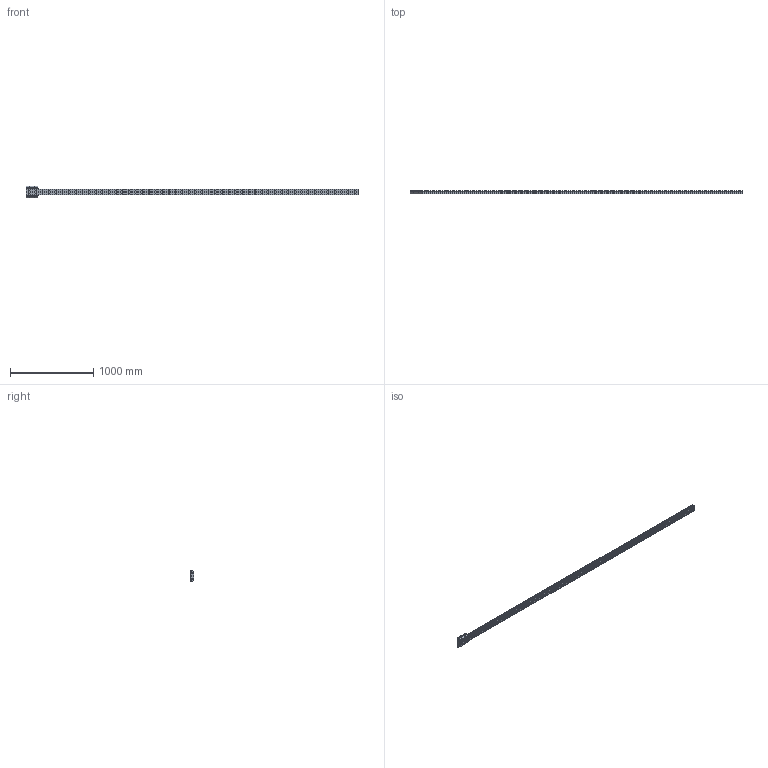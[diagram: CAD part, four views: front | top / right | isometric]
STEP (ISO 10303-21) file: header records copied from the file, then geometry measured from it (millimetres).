
FILE_DESCRIPTION( ( 'STEP AP203' ), '1' );
FILE_NAME( 'p:/temp/worker_10/temp/exporttempdir_5996_309_gaSe0/format_0/FDA35 84368A_4000-0-0.stp', '2021-02-04T01:51:03', ( 'License CC BY-ND 4.0' ), ( 'CADENAS' ), ' ', 'PARTsolutions', ' ' );
FILE_SCHEMA( ( 'CONFIG_CONTROL_DESIGN' ) );
Length unit declared in the file: millimetre
Products named in the file (5): FDA35 84368A_4000-0-0; _FD_35R 4000-0-0; _FD_35R Rollenhalter_1; _FD_35R 4000-0-0_2; _FD_35R Rollenhalter_2
Assembly tree (4 placements, depth 2):
  FDA35 84368A_4000-0-0
    _FD_35R 4000-0-0
    _FD_35R Rollenhalter_1
    _FD_35R 4000-0-0_2
    _FD_35R Rollenhalter_2
Bounding box: 4000 x 44.5 x 137.8 mm (x, y, z)
Volume: 9147875.2 mm3; surface area: 1413591.6 mm2
Topology: 4 solids, 8 shells, 750 faces, 1974 edges, 1342 vertices
Faces by surface type: plane 473, cylinder 264, cone 12, torus 1
Full cylindrical faces by diameter (mm): 4.2 x1, 4.917 x8, 8.376 x4, 9 x100, 14 x1, 15 x100
Entity records: 21734 total; most frequent: CARTESIAN_POINT 3685, DIRECTION 3670, ORIENTED_EDGE 3258, EDGE_CURVE 1629, AXIS2_PLACEMENT_3D 1297, EDGE_LOOP 1285, VERTEX_POINT 1230, LINE 1076
